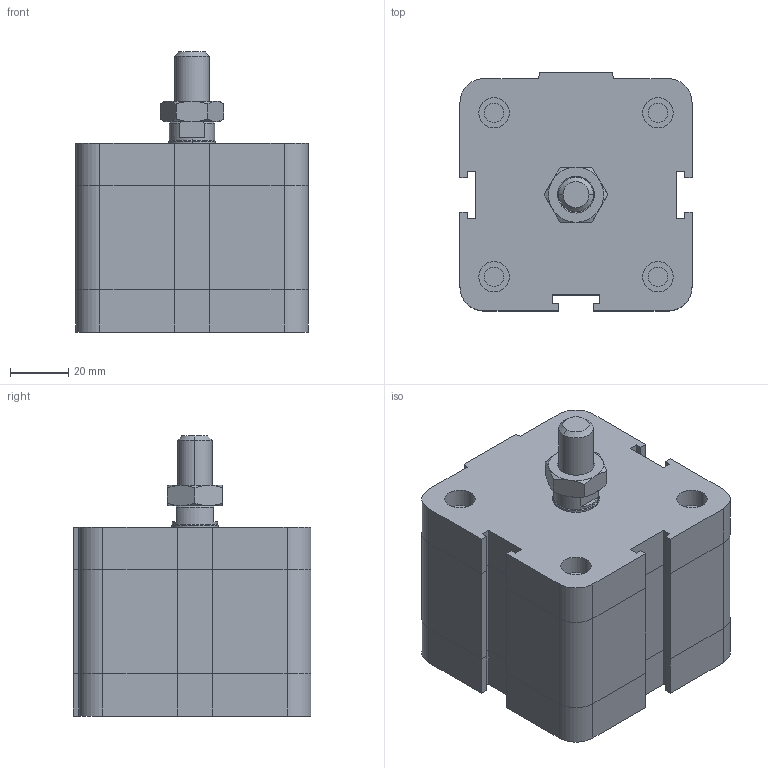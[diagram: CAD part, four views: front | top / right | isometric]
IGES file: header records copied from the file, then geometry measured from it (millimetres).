
Global section: file name: No Iges File Name specified; native system: Autodesk Inventor 2009; preprocessor: AutoDesk Inventor Iges Exporter R2009; author: rivolro1; date: 20081219.160501; units: millimetre
Bounding box: 80 x 82 x 96.5 mm (x, y, z)
Volume: 396633.1 mm3; surface area: 46724.6 mm2
Topology: 3 solids, 3 shells, 216 faces, 472 edges, 282 vertices
Faces by surface type: plane 121, bspline 37, cylinder 20, cone 20, revolution 18
